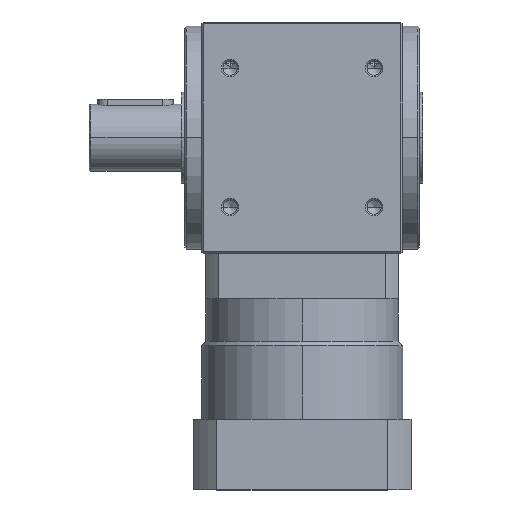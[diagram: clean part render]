
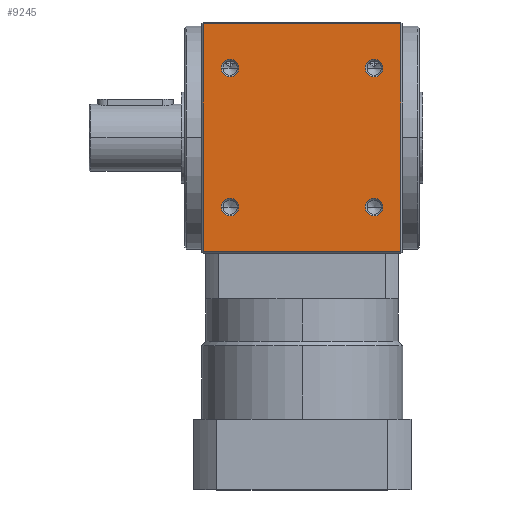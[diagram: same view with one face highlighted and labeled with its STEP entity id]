
A CAD part, top view. The second image highlights one B-rep face of the part: STEP entity #9245.
In plain terms, the highlighted planar face has unit normal (0, 0, 1).
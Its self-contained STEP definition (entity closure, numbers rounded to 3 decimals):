
#105 = CARTESIAN_POINT ( 'NONE',  ( -59., 68., 69. ) ) ;
#205 = EDGE_CURVE ( 'NONE', #6439, #5489, #710, .T. ) ;
#431 = VECTOR ( 'NONE', #4746, 1000. ) ;
#547 = VERTEX_POINT ( 'NONE', #1278 ) ;
#596 = DIRECTION ( 'NONE',  ( 1., 0., 0. ) ) ;
#645 = DIRECTION ( 'NONE',  ( 1., 0., 0. ) ) ;
#710 = CIRCLE ( 'NONE', #2996, 5.25 ) ;
#846 = ORIENTED_EDGE ( 'NONE', *, *, #1048, .F. ) ;
#910 = AXIS2_PLACEMENT_3D ( 'NONE', #3613, #8876, #4409 ) ;
#1001 = DIRECTION ( 'NONE',  ( 0., 0., 1. ) ) ;
#1040 = VERTEX_POINT ( 'NONE', #4511 ) ;
#1048 = EDGE_CURVE ( 'NONE', #9182, #2264, #8500, .T. ) ;
#1181 = ORIENTED_EDGE ( 'NONE', *, *, #7994, .F. ) ;
#1269 = ORIENTED_EDGE ( 'NONE', *, *, #4038, .F. ) ;
#1278 = CARTESIAN_POINT ( 'NONE',  ( -48.25, 41.5, 69. ) ) ;
#1294 = AXIS2_PLACEMENT_3D ( 'NONE', #9900, #5510, #645 ) ;
#1316 = AXIS2_PLACEMENT_3D ( 'NONE', #9857, #5459, #596 ) ;
#1341 = FACE_BOUND ( 'NONE', #4635, .T. ) ;
#1517 = CARTESIAN_POINT ( 'NONE',  ( -43., 41.5, 69. ) ) ;
#1590 = FACE_OUTER_BOUND ( 'NONE', #1663, .T. ) ;
#1663 = EDGE_LOOP ( 'NONE', ( #2884, #9433, #1269, #8703 ) ) ;
#1925 = ORIENTED_EDGE ( 'NONE', *, *, #8724, .F. ) ;
#1985 = DIRECTION ( 'NONE',  ( 0., -1., 0. ) ) ;
#1988 = LINE ( 'NONE', #4670, #7952 ) ;
#2119 = VERTEX_POINT ( 'NONE', #5981 ) ;
#2183 = CARTESIAN_POINT ( 'NONE',  ( -48.25, -41.5, 69. ) ) ;
#2218 = DIRECTION ( 'NONE',  ( 0., 1., 0. ) ) ;
#2264 = VERTEX_POINT ( 'NONE', #3168 ) ;
#2367 = DIRECTION ( 'NONE',  ( 1., 0., 0. ) ) ;
#2388 = CIRCLE ( 'NONE', #1294, 5.25 ) ;
#2569 = ORIENTED_EDGE ( 'NONE', *, *, #8808, .F. ) ;
#2780 = CIRCLE ( 'NONE', #3479, 5.25 ) ;
#2858 = DIRECTION ( 'NONE',  ( 0., 0., -1. ) ) ;
#2860 = CARTESIAN_POINT ( 'NONE',  ( -37.75, -41.5, 69. ) ) ;
#2884 = ORIENTED_EDGE ( 'NONE', *, *, #8776, .F. ) ;
#2996 = AXIS2_PLACEMENT_3D ( 'NONE', #3140, #3119, #3098 ) ;
#3006 = CARTESIAN_POINT ( 'NONE',  ( 43., 41.5, 69. ) ) ;
#3056 = CARTESIAN_POINT ( 'NONE',  ( -59., 69., 69. ) ) ;
#3098 = DIRECTION ( 'NONE',  ( 1., 0., 0. ) ) ;
#3119 = DIRECTION ( 'NONE',  ( 0., 0., 1. ) ) ;
#3140 = CARTESIAN_POINT ( 'NONE',  ( -43., -41.5, 69. ) ) ;
#3147 = CARTESIAN_POINT ( 'NONE',  ( 60., 68., 69. ) ) ;
#3168 = CARTESIAN_POINT ( 'NONE',  ( 48.25, -41.5, 69. ) ) ;
#3226 = AXIS2_PLACEMENT_3D ( 'NONE', #3685, #3577, #3541 ) ;
#3269 = EDGE_CURVE ( 'NONE', #5489, #6439, #8016, .T. ) ;
#3408 = EDGE_CURVE ( 'NONE', #9237, #8391, #5802, .T. ) ;
#3479 = AXIS2_PLACEMENT_3D ( 'NONE', #3006, #8355, #3854 ) ;
#3541 = DIRECTION ( 'NONE',  ( 1., 0., 0. ) ) ;
#3577 = DIRECTION ( 'NONE',  ( 0., 0., 1. ) ) ;
#3613 = CARTESIAN_POINT ( 'NONE',  ( 43., 41.5, 69. ) ) ;
#3685 = CARTESIAN_POINT ( 'NONE',  ( 43., -41.5, 69. ) ) ;
#3854 = DIRECTION ( 'NONE',  ( 1., 0., 0. ) ) ;
#3929 = EDGE_CURVE ( 'NONE', #8715, #6584, #6215, .T. ) ;
#4038 = EDGE_CURVE ( 'NONE', #6584, #2119, #1988, .T. ) ;
#4101 = EDGE_CURVE ( 'NONE', #547, #1040, #5960, .T. ) ;
#4323 = EDGE_LOOP ( 'NONE', ( #2569, #7605 ) ) ;
#4409 = DIRECTION ( 'NONE',  ( 1., 0., 0. ) ) ;
#4472 = PLANE ( 'NONE',  #6519 ) ;
#4511 = CARTESIAN_POINT ( 'NONE',  ( -37.75, 41.5, 69. ) ) ;
#4635 = EDGE_LOOP ( 'NONE', ( #1181, #8652 ) ) ;
#4670 = CARTESIAN_POINT ( 'NONE',  ( 60., -68., 69. ) ) ;
#4746 = DIRECTION ( 'NONE',  ( 1., 0., 0. ) ) ;
#4841 = ORIENTED_EDGE ( 'NONE', *, *, #205, .F. ) ;
#5459 = DIRECTION ( 'NONE',  ( 0., 0., 1. ) ) ;
#5489 = VERTEX_POINT ( 'NONE', #2183 ) ;
#5510 = DIRECTION ( 'NONE',  ( 0., 0., 1. ) ) ;
#5597 = EDGE_LOOP ( 'NONE', ( #4841, #6305 ) ) ;
#5802 = CIRCLE ( 'NONE', #910, 5.25 ) ;
#5835 = CARTESIAN_POINT ( 'NONE',  ( -43., -41.5, 69. ) ) ;
#5938 = CARTESIAN_POINT ( 'NONE',  ( 59., 69., 69. ) ) ;
#5950 = EDGE_LOOP ( 'NONE', ( #1925, #846 ) ) ;
#5960 = CIRCLE ( 'NONE', #1316, 5.25 ) ;
#5981 = CARTESIAN_POINT ( 'NONE',  ( -59., -68., 69. ) ) ;
#6086 = CARTESIAN_POINT ( 'NONE',  ( 59., -68., 69. ) ) ;
#6215 = LINE ( 'NONE', #5938, #7959 ) ;
#6305 = ORIENTED_EDGE ( 'NONE', *, *, #3269, .F. ) ;
#6439 = VERTEX_POINT ( 'NONE', #2860 ) ;
#6519 = AXIS2_PLACEMENT_3D ( 'NONE', #7497, #2858, #8227 ) ;
#6584 = VERTEX_POINT ( 'NONE', #6086 ) ;
#6608 = DIRECTION ( 'NONE',  ( 1., 0., 0. ) ) ;
#6731 = CARTESIAN_POINT ( 'NONE',  ( 48.25, 41.5, 69. ) ) ;
#6807 = VERTEX_POINT ( 'NONE', #105 ) ;
#7044 = DIRECTION ( 'NONE',  ( 0., 0., 1. ) ) ;
#7469 = CARTESIAN_POINT ( 'NONE',  ( 37.75, 41.5, 69. ) ) ;
#7497 = CARTESIAN_POINT ( 'NONE',  ( 60., 69., 69. ) ) ;
#7605 = ORIENTED_EDGE ( 'NONE', *, *, #4101, .F. ) ;
#7612 = FACE_BOUND ( 'NONE', #5950, .T. ) ;
#7826 = VECTOR ( 'NONE', #2218, 1000. ) ;
#7927 = AXIS2_PLACEMENT_3D ( 'NONE', #1517, #7044, #2367 ) ;
#7934 = AXIS2_PLACEMENT_3D ( 'NONE', #5835, #1001, #6608 ) ;
#7952 = VECTOR ( 'NONE', #9832, 1000. ) ;
#7959 = VECTOR ( 'NONE', #1985, 1000. ) ;
#7994 = EDGE_CURVE ( 'NONE', #8391, #9237, #2780, .T. ) ;
#8016 = CIRCLE ( 'NONE', #7934, 5.25 ) ;
#8069 = CIRCLE ( 'NONE', #7927, 5.25 ) ;
#8227 = DIRECTION ( 'NONE',  ( 0., 1., 0. ) ) ;
#8355 = DIRECTION ( 'NONE',  ( 0., 0., 1. ) ) ;
#8391 = VERTEX_POINT ( 'NONE', #6731 ) ;
#8473 = CARTESIAN_POINT ( 'NONE',  ( 59., 68., 69. ) ) ;
#8500 = CIRCLE ( 'NONE', #3226, 5.25 ) ;
#8652 = ORIENTED_EDGE ( 'NONE', *, *, #3408, .F. ) ;
#8703 = ORIENTED_EDGE ( 'NONE', *, *, #3929, .F. ) ;
#8715 = VERTEX_POINT ( 'NONE', #8473 ) ;
#8724 = EDGE_CURVE ( 'NONE', #2264, #9182, #2388, .T. ) ;
#8776 = EDGE_CURVE ( 'NONE', #6807, #8715, #9985, .T. ) ;
#8808 = EDGE_CURVE ( 'NONE', #1040, #547, #8069, .T. ) ;
#8868 = CARTESIAN_POINT ( 'NONE',  ( 37.75, -41.5, 69. ) ) ;
#8876 = DIRECTION ( 'NONE',  ( 0., 0., 1. ) ) ;
#9182 = VERTEX_POINT ( 'NONE', #8868 ) ;
#9237 = VERTEX_POINT ( 'NONE', #7469 ) ;
#9245 = ADVANCED_FACE ( 'NONE', ( #9542, #7612, #1341, #9313, #1590 ), #4472, .F. ) ;
#9313 = FACE_BOUND ( 'NONE', #4323, .T. ) ;
#9414 = EDGE_CURVE ( 'NONE', #2119, #6807, #9977, .T. ) ;
#9433 = ORIENTED_EDGE ( 'NONE', *, *, #9414, .F. ) ;
#9542 = FACE_BOUND ( 'NONE', #5597, .T. ) ;
#9832 = DIRECTION ( 'NONE',  ( -1., 0., 0. ) ) ;
#9857 = CARTESIAN_POINT ( 'NONE',  ( -43., 41.5, 69. ) ) ;
#9900 = CARTESIAN_POINT ( 'NONE',  ( 43., -41.5, 69. ) ) ;
#9977 = LINE ( 'NONE', #3056, #7826 ) ;
#9985 = LINE ( 'NONE', #3147, #431 ) ;
